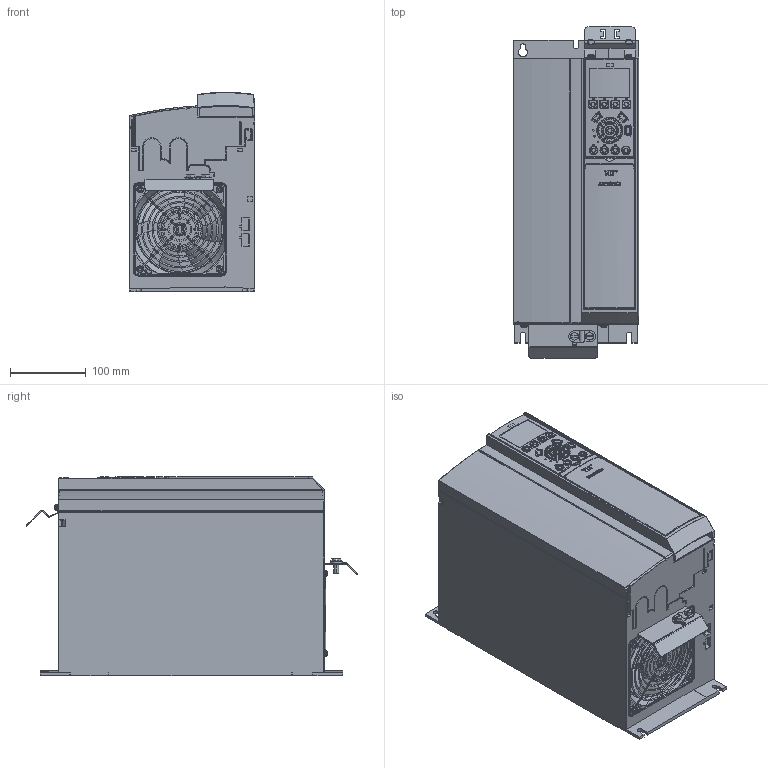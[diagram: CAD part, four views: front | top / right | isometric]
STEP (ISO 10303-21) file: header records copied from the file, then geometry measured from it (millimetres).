
FILE_DESCRIPTION((''),'2;1');
FILE_NAME('DANFOSS-FC300-B3-IP20-AB-105','2007-06-15T',('Naushad.pm'),('dan Drives A/S'),'PRO/ENGINEER BY PARAMETRIC TECHNOLOGY CORPORATION, 2006200','PRO/ENGINEER BY PARAMETRIC TECHNOLOGY CORPORATION, 2006200','');
FILE_SCHEMA(('CONFIG_CONTROL_DESIGN', 'GEOMETRIC_VALIDATION_PROPERTIES_MIM'));
Products named in the file (1): DANFOSS-FC300-B3-IP20-AB-105
Bounding box: 165 x 437.49 x 262.51 mm (x, y, z)
Volume: 14050104.1 mm3; surface area: 538747.9 mm2
Topology: 2 solids, 19 shells, 3776 faces, 9177 edges, 5549 vertices
Faces by surface type: cylinder 1290, plane 1108, bspline 521, torus 381, sphere 203, extrusion 182, cone 91
Entity records: 201915 total; most frequent: CARTESIAN_POINT 61558, ORIENTED_EDGE 18340, DIRECTION 15756, PRESENTATION_STYLE_ASSIGNMENT 12018, STYLED_ITEM 9198, CURVE_STYLE 9170, EDGE_CURVE 9170, AXIS2_PLACEMENT_3D 5780
